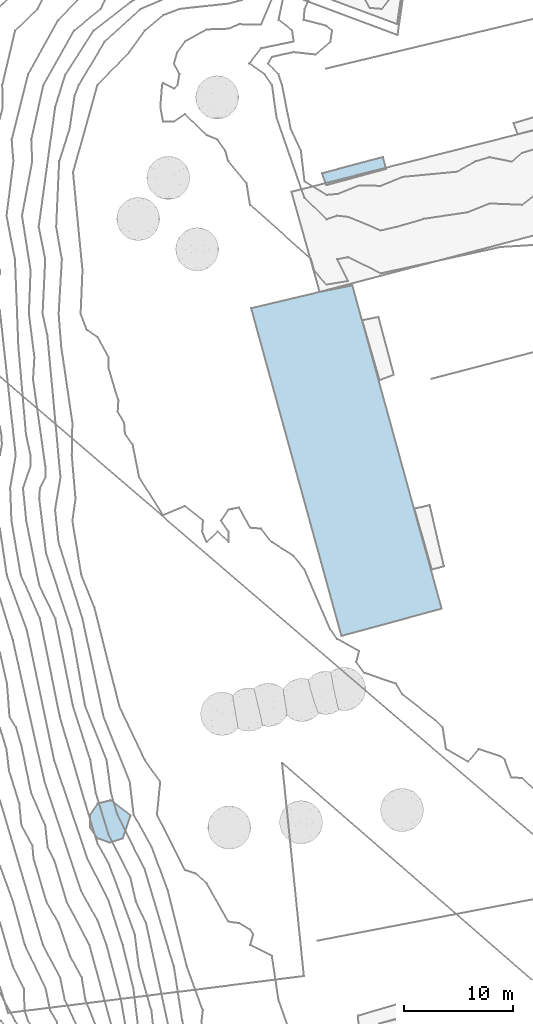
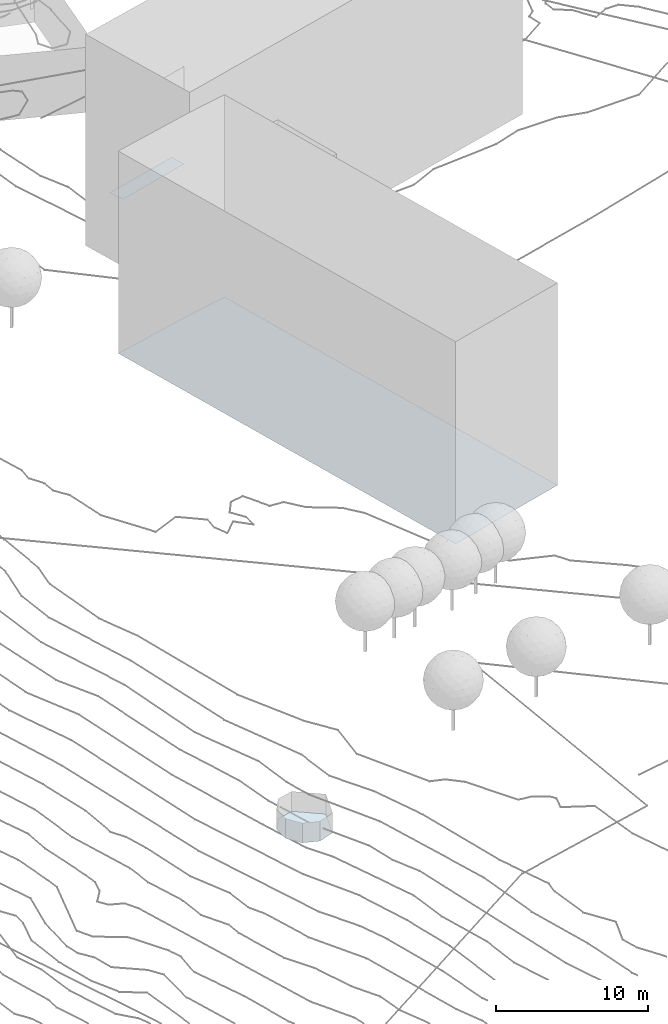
# Not in any storey, part 22 of 419: 3 footings.
"""IFC2X3 model written with IfcOpenShell, lengths in metres."""

from ifc_helpers import new_model, si_unit, frame, origin_with_axes, place, context, subcontext, project, faceted_brep, element, save


model = new_model("IFC2X3")

# Units and contexts
model_context = context("Model", 3, precision=1e-05, world=origin_with_axes())
body_context = subcontext(model_context, "Body", "Model", "MODEL_VIEW")
ifc_project = project(units=[si_unit("AREAUNIT", "SQUARE_METRE"), si_unit("LENGTHUNIT", "METRE")], contexts=[model_context])

# Footings
footing_1_placement = place(None, frame((818.1920204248, 969.3976909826, 98.0246006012), z_axis=(0.0, 0.0, 1.0), x_axis=(1.0, 0.0, 0.0)))
element("IfcFooting", 1, at=footing_1_placement, Name="Sol 0", PredefinedType="STRIP_FOOTING", context=body_context, shape_type="Brep", body=[
    faceted_brep([(0.0, 0.0, 0.0), (6.3, 1.5, 0.0), (9.3, 2.0999999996, 0.0), (17.5, -27.5999999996, 0.0), (8.3, -30.0999999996, 0.0)], [[[0, 1, 2]], [[3, 4, 0]], [[0, 2, 3]]]),
])
footing_2_placement = place(None, frame((824.6920204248, 981.7976909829, 101.1435016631), z_axis=(0.0, 0.0, 1.0), x_axis=(1.0, 0.0, 0.0)))
element("IfcFooting", 2, at=footing_2_placement, Name="Sol 0", PredefinedType="STRIP_FOOTING", context=body_context, shape_type="Brep", body=[
    faceted_brep([(5.9, 0.3999999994, 0.0), (0.4, -1.1000000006, 0.0), (0.0, 0.0, 0.0), (5.6, 1.5, 0.0)], [[[0, 1, 2]], [[2, 3, 0]]]),
])
footing_3_placement = place(None, frame((803.3920204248, 921.6976909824, 93.1024017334), z_axis=(0.0, 0.0, 1.0), x_axis=(1.0, 0.0, 0.0)))
element("IfcFooting", 3, at=footing_3_placement, Name="Sol 0", PredefinedType="STRIP_FOOTING", context=body_context, shape_type="Brep", body=[
    faceted_brep([(3.7, 1.1000000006, 0.0), (3.0, -1.0, 0.0), (1.7999999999, -1.3999999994, 0.0), (0.7, 2.2000000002, 0.0), (1.8999999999, 2.5, 0.0), (0.0, 0.0, 0.0), (0.0, 1.2000000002, 0.0), (0.7, -1.0, 0.0)], [[[0, 1, 2]], [[3, 4, 0]], [[5, 6, 3]], [[2, 7, 5]], [[3, 0, 2]], [[2, 5, 3]]]),
])

save(model, "model.ifc")
